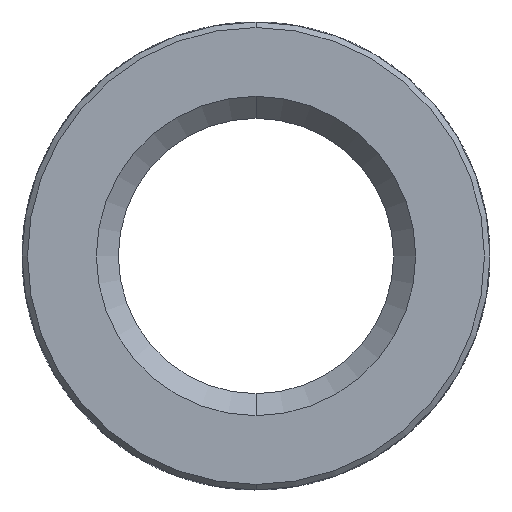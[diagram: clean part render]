
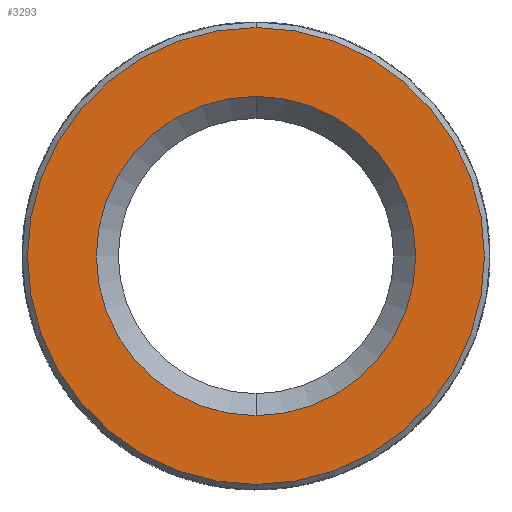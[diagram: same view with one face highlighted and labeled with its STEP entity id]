
A CAD part, front view. The second image highlights one B-rep face of the part: STEP entity #3293.
In plain terms, the highlighted planar face has unit normal (0, -1, 0).
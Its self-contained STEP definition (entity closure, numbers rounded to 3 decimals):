
#3 = AXIS2_PLACEMENT_3D ( 'NONE', #905, #1186, #3501 ) ;
#87 = AXIS2_PLACEMENT_3D ( 'NONE', #3039, #1821, #1297 ) ;
#94 = CARTESIAN_POINT ( 'NONE',  ( 0., -6.8, 4.25 ) ) ;
#120 = EDGE_CURVE ( 'NONE', #2414, #2211, #244, .T. ) ;
#133 = FACE_BOUND ( 'NONE', #2920, .T. ) ;
#244 = CIRCLE ( 'NONE', #3588, 4.15 ) ;
#249 = DIRECTION ( 'NONE',  ( 0., 1., 0. ) ) ;
#525 = CARTESIAN_POINT ( 'NONE',  ( 0., -6.8, 0. ) ) ;
#528 = EDGE_LOOP ( 'NONE', ( #3487, #1053 ) ) ;
#693 = ORIENTED_EDGE ( 'NONE', *, *, #3118, .T. ) ;
#905 = CARTESIAN_POINT ( 'NONE',  ( 0., -6.8, 0. ) ) ;
#1034 = FACE_OUTER_BOUND ( 'NONE', #528, .T. ) ;
#1047 = CARTESIAN_POINT ( 'NONE',  ( 0., -6.8, -2.9 ) ) ;
#1053 = ORIENTED_EDGE ( 'NONE', *, *, #2020, .T. ) ;
#1111 = CARTESIAN_POINT ( 'NONE',  ( 0., -6.8, 2.9 ) ) ;
#1170 = CIRCLE ( 'NONE', #1284, 2.9 ) ;
#1186 = DIRECTION ( 'NONE',  ( 0., 1., 0. ) ) ;
#1284 = AXIS2_PLACEMENT_3D ( 'NONE', #525, #249, #1462 ) ;
#1297 = DIRECTION ( 'NONE',  ( 0., 0., -1. ) ) ;
#1462 = DIRECTION ( 'NONE',  ( 0., 0., -1. ) ) ;
#1530 = DIRECTION ( 'NONE',  ( 0., 0., -1. ) ) ;
#1804 = PLANE ( 'NONE',  #2310 ) ;
#1821 = DIRECTION ( 'NONE',  ( 0., -1., 0. ) ) ;
#2020 = EDGE_CURVE ( 'NONE', #2211, #2414, #2398, .T. ) ;
#2054 = CARTESIAN_POINT ( 'NONE',  ( 0., -6.8, 4.15 ) ) ;
#2163 = ORIENTED_EDGE ( 'NONE', *, *, #3143, .T. ) ;
#2211 = VERTEX_POINT ( 'NONE', #2591 ) ;
#2310 = AXIS2_PLACEMENT_3D ( 'NONE', #94, #3546, #1530 ) ;
#2334 = CIRCLE ( 'NONE', #3, 2.9 ) ;
#2398 = CIRCLE ( 'NONE', #87, 4.15 ) ;
#2414 = VERTEX_POINT ( 'NONE', #2054 ) ;
#2591 = CARTESIAN_POINT ( 'NONE',  ( 0., -6.8, -4.15 ) ) ;
#2766 = DIRECTION ( 'NONE',  ( 0., -1., 0. ) ) ;
#2785 = CARTESIAN_POINT ( 'NONE',  ( 0., -6.8, 0. ) ) ;
#2920 = EDGE_LOOP ( 'NONE', ( #693, #2163 ) ) ;
#3039 = CARTESIAN_POINT ( 'NONE',  ( 0., -6.8, 0. ) ) ;
#3103 = DIRECTION ( 'NONE',  ( 0., 0., -1. ) ) ;
#3118 = EDGE_CURVE ( 'NONE', #3547, #3717, #1170, .T. ) ;
#3143 = EDGE_CURVE ( 'NONE', #3717, #3547, #2334, .T. ) ;
#3293 = ADVANCED_FACE ( 'NONE', ( #1034, #133 ), #1804, .T. ) ;
#3487 = ORIENTED_EDGE ( 'NONE', *, *, #120, .T. ) ;
#3501 = DIRECTION ( 'NONE',  ( 0., 0., -1. ) ) ;
#3546 = DIRECTION ( 'NONE',  ( 0., -1., 0. ) ) ;
#3547 = VERTEX_POINT ( 'NONE', #1047 ) ;
#3588 = AXIS2_PLACEMENT_3D ( 'NONE', #2785, #2766, #3103 ) ;
#3717 = VERTEX_POINT ( 'NONE', #1111 ) ;
